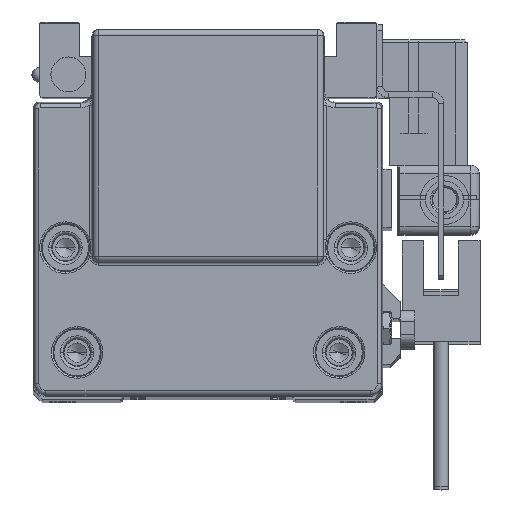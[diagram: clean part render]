
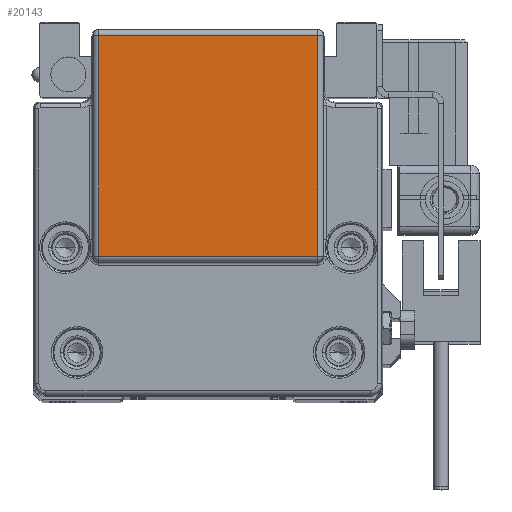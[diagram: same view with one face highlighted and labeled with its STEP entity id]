
A CAD part, top view. The second image highlights one B-rep face of the part: STEP entity #20143.
In plain terms, the highlighted planar face has unit normal (0, 0, 1) as drawn and (0, 0, -1) by its records, which use the part's own axes.
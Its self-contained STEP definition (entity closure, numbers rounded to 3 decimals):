
#997 = DIRECTION ( 'NONE',  ( 1., 0., 0. ) ) ;
#2497 = VECTOR ( 'NONE', #31757, 1000. ) ;
#3305 = CARTESIAN_POINT ( 'NONE',  ( 19., 24.518, -143. ) ) ;
#3748 = CARTESIAN_POINT ( 'NONE',  ( -18.808, 24.518, -143. ) ) ;
#8857 = CARTESIAN_POINT ( 'NONE',  ( 18.808, 24.518, -143. ) ) ;
#10280 = EDGE_CURVE ( 'NONE', #33905, #13629, #46571, .T. ) ;
#10580 = LINE ( 'NONE', #15642, #33942 ) ;
#10749 = ORIENTED_EDGE ( 'NONE', *, *, #38497, .F. ) ;
#11143 = DIRECTION ( 'NONE',  ( 0., -1., 0. ) ) ;
#13629 = VERTEX_POINT ( 'NONE', #8857 ) ;
#14156 = CARTESIAN_POINT ( 'NONE',  ( -18.808, 62.447, -143. ) ) ;
#14682 = DIRECTION ( 'NONE',  ( 0., 0., -1. ) ) ;
#15232 = LINE ( 'NONE', #25316, #47941 ) ;
#15608 = DIRECTION ( 'NONE',  ( 0., 1., 0. ) ) ;
#15642 = CARTESIAN_POINT ( 'NONE',  ( 18.808, 24.5, -143. ) ) ;
#15924 = PLANE ( 'NONE',  #31133 ) ;
#16615 = VERTEX_POINT ( 'NONE', #35872 ) ;
#16822 = CARTESIAN_POINT ( 'NONE',  ( -18.808, 31., -143. ) ) ;
#20143 = ADVANCED_FACE ( 'NONE', ( #49081 ), #15924, .T. ) ;
#25316 = CARTESIAN_POINT ( 'NONE',  ( 19., 62.447, -143. ) ) ;
#26195 = ORIENTED_EDGE ( 'NONE', *, *, #45679, .T. ) ;
#31133 = AXIS2_PLACEMENT_3D ( 'NONE', #38674, #14682, #15608 ) ;
#31497 = VERTEX_POINT ( 'NONE', #14156 ) ;
#31757 = DIRECTION ( 'NONE',  ( 1., 0., 0. ) ) ;
#33905 = VERTEX_POINT ( 'NONE', #3748 ) ;
#33942 = VECTOR ( 'NONE', #57926, 1000. ) ;
#34601 = VECTOR ( 'NONE', #11143, 1000. ) ;
#35160 = LINE ( 'NONE', #16822, #34601 ) ;
#35872 = CARTESIAN_POINT ( 'NONE',  ( 18.808, 62.447, -143. ) ) ;
#38497 = EDGE_CURVE ( 'NONE', #31497, #33905, #35160, .T. ) ;
#38674 = CARTESIAN_POINT ( 'NONE',  ( 19., 24.5, -143. ) ) ;
#45679 = EDGE_CURVE ( 'NONE', #31497, #16615, #15232, .T. ) ;
#46571 = LINE ( 'NONE', #3305, #2497 ) ;
#47941 = VECTOR ( 'NONE', #997, 1000. ) ;
#48282 = EDGE_CURVE ( 'NONE', #13629, #16615, #10580, .T. ) ;
#49081 = FACE_OUTER_BOUND ( 'NONE', #52635, .T. ) ;
#52635 = EDGE_LOOP ( 'NONE', ( #56669, #53299, #10749, #26195 ) ) ;
#53299 = ORIENTED_EDGE ( 'NONE', *, *, #10280, .F. ) ;
#56669 = ORIENTED_EDGE ( 'NONE', *, *, #48282, .F. ) ;
#57926 = DIRECTION ( 'NONE',  ( 0., 1., 0. ) ) ;
